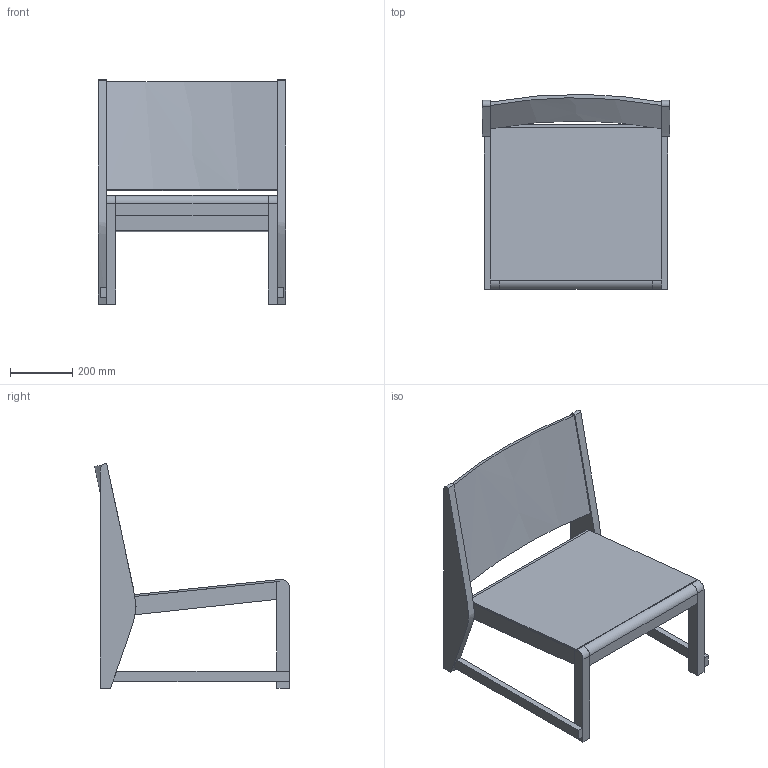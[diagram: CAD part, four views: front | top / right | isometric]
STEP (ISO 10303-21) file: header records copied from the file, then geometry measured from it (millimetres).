
FILE_DESCRIPTION(/* description */ (''),/* implementation_level */ '2;1');
FILE_NAME(/* name */ 'FRAMA_01-EasyChair-3D',/* time_stamp */ '2025-10-20T13:27:45+02:00',/* author */ (''),/* organization */ (''),/* preprocessor_version */ 'ST-DEVELOPER v16.5',/* originating_system */ 'Rhino 7.38',/* authorisation */ '');
FILE_SCHEMA (('CONFIG_CONTROL_DESIGN'));
Length unit declared in the file: millimetre
Products named in the file (1): Document
Bounding box: 602.3 x 625.31 x 720.23 mm (x, y, z)
Volume: 9717520.6 mm3; surface area: 1851001.7 mm2
Topology: 10 solids, 12 shells, 79 faces, 195 edges, 139 vertices
Faces by surface type: plane 68, bspline 8, cylinder 3
Entity records: 2211 total; most frequent: CARTESIAN_POINT 837, ORIENTED_EDGE 328, EDGE_CURVE 177, B_SPLINE_CURVE_WITH_KNOTS 168, VERTEX_POINT 118, ADVANCED_FACE 79, FACE_OUTER_BOUND 79, EDGE_LOOP 79
